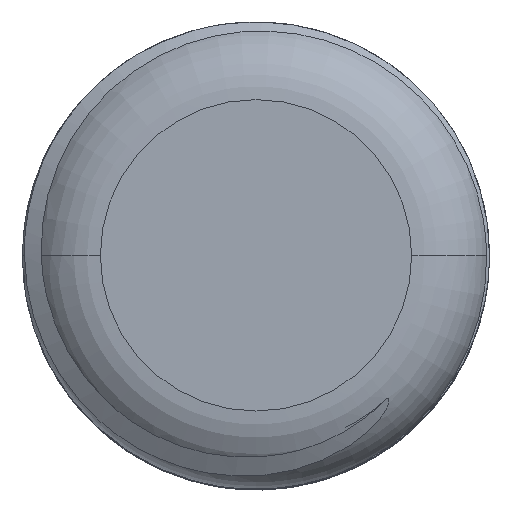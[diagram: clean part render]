
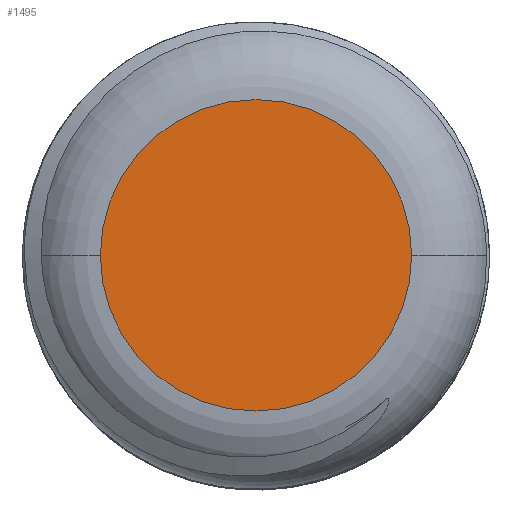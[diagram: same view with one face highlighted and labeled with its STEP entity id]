
A CAD part, top view. The second image highlights one B-rep face of the part: STEP entity #1495.
In plain terms, the highlighted planar face has unit normal (0, 0, 1).
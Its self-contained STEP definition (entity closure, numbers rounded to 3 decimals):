
#4 = DIRECTION ( 'NONE',  ( 1., 0., 0. ) ) ;
#27 = DIRECTION ( 'NONE',  ( 1., 0., 0. ) ) ;
#207 = AXIS2_PLACEMENT_3D ( 'NONE', #505, #272, #27 ) ;
#250 = DIRECTION ( 'NONE',  ( 0., 0., 1. ) ) ;
#272 = DIRECTION ( 'NONE',  ( 0., 0., 1. ) ) ;
#303 = DIRECTION ( 'NONE',  ( 1., 0., 0. ) ) ;
#309 = CIRCLE ( 'NONE', #207, 2. ) ;
#373 = EDGE_CURVE ( 'NONE', #1879, #1571, #517, .T. ) ;
#374 = CARTESIAN_POINT ( 'NONE',  ( 2., 0., 10. ) ) ;
#468 = EDGE_LOOP ( 'NONE', ( #1654, #1251 ) ) ;
#484 = CARTESIAN_POINT ( 'NONE',  ( 0., 0., 10. ) ) ;
#505 = CARTESIAN_POINT ( 'NONE',  ( 0., 0., 10. ) ) ;
#517 = CIRCLE ( 'NONE', #1088, 2. ) ;
#534 = DIRECTION ( 'NONE',  ( 0., 0., 1. ) ) ;
#615 = EDGE_CURVE ( 'NONE', #1571, #1879, #309, .T. ) ;
#1016 = CARTESIAN_POINT ( 'NONE',  ( 0., 0., 10. ) ) ;
#1088 = AXIS2_PLACEMENT_3D ( 'NONE', #1016, #534, #303 ) ;
#1251 = ORIENTED_EDGE ( 'NONE', *, *, #373, .T. ) ;
#1285 = AXIS2_PLACEMENT_3D ( 'NONE', #484, #250, #4 ) ;
#1430 = PLANE ( 'NONE',  #1285 ) ;
#1495 = ADVANCED_FACE ( 'NONE', ( #2243 ), #1430, .T. ) ;
#1571 = VERTEX_POINT ( 'NONE', #374 ) ;
#1654 = ORIENTED_EDGE ( 'NONE', *, *, #615, .T. ) ;
#1879 = VERTEX_POINT ( 'NONE', #2079 ) ;
#2079 = CARTESIAN_POINT ( 'NONE',  ( -2., 0., 10. ) ) ;
#2243 = FACE_OUTER_BOUND ( 'NONE', #468, .T. ) ;
